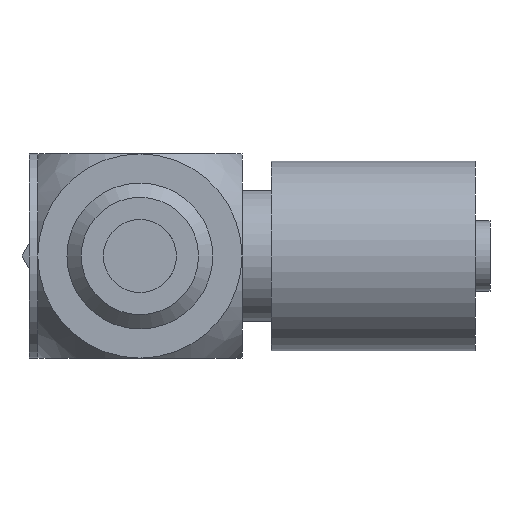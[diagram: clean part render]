
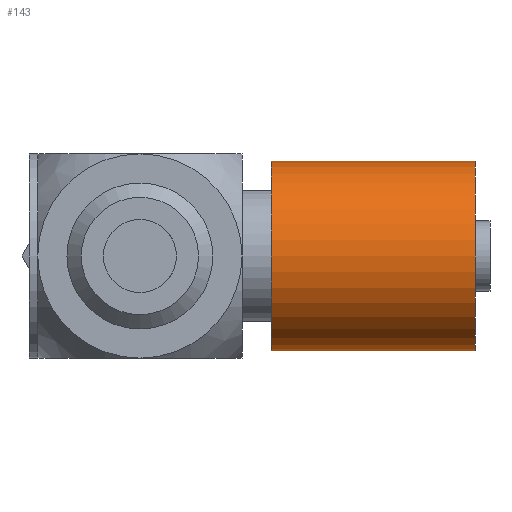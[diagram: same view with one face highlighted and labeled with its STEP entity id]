
A CAD part, front view. The second image highlights one B-rep face of the part: STEP entity #143.
In plain terms, the highlighted cylindrical face has radius 3.25 mm (diameter 6.5 mm), a full revolution.
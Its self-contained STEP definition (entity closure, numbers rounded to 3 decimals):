
#143 = ADVANCED_FACE( '', ( #308, #309 ), #310, .T. );
#308 = FACE_OUTER_BOUND( '', #490, .T. );
#309 = FACE_OUTER_BOUND( '', #491, .T. );
#310 = CYLINDRICAL_SURFACE( '', #492, 3.25 );
#490 = EDGE_LOOP( '', ( #825 ) );
#491 = EDGE_LOOP( '', ( #826 ) );
#492 = AXIS2_PLACEMENT_3D( '', #827, #828, #829 );
#825 = ORIENTED_EDGE( '', *, *, #1096, .F. );
#826 = ORIENTED_EDGE( '', *, *, #996, .T. );
#827 = CARTESIAN_POINT( '', ( 12., 5.5, 0. ) );
#828 = DIRECTION( '', ( -1., 0., 0. ) );
#829 = DIRECTION( '', ( 0., 0., -1. ) );
#996 = EDGE_CURVE( '', #1169, #1169, #1170, .T. );
#1096 = EDGE_CURVE( '', #1311, #1311, #1312, .T. );
#1169 = VERTEX_POINT( '', #1410 );
#1170 = CIRCLE( '', #1411, 3.25 );
#1311 = VERTEX_POINT( '', #1627 );
#1312 = CIRCLE( '', #1628, 3.25 );
#1410 = CARTESIAN_POINT( '', ( 4.5, 5.5, -3.25 ) );
#1411 = AXIS2_PLACEMENT_3D( '', #1727, #1728, #1729 );
#1627 = CARTESIAN_POINT( '', ( 11.5, 5.5, -3.25 ) );
#1628 = AXIS2_PLACEMENT_3D( '', #1853, #1854, #1855 );
#1727 = CARTESIAN_POINT( '', ( 4.5, 5.5, 0. ) );
#1728 = DIRECTION( '', ( 1., 0., 0. ) );
#1729 = DIRECTION( '', ( 0., 0., -1. ) );
#1853 = CARTESIAN_POINT( '', ( 11.5, 5.5, 0. ) );
#1854 = DIRECTION( '', ( 1., 0., 0. ) );
#1855 = DIRECTION( '', ( 0., 0., -1. ) );
